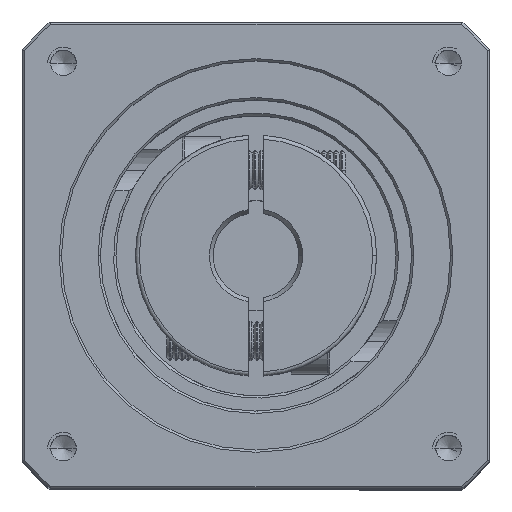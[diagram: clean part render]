
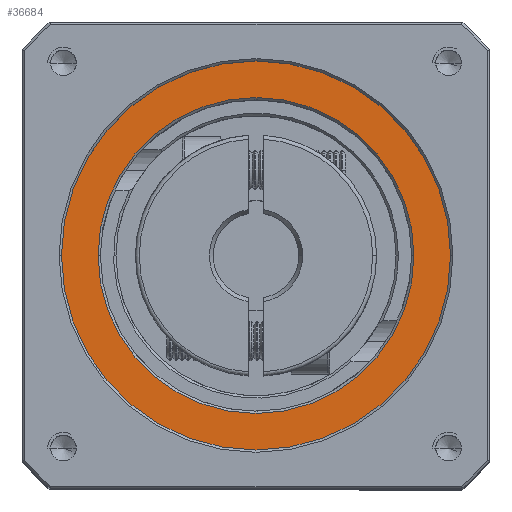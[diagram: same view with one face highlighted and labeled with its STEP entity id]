
A CAD part, top view. The second image highlights one B-rep face of the part: STEP entity #36684.
In plain terms, the highlighted planar face has unit normal (0, 0, 1).
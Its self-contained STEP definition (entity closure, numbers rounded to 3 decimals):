
#552 = VERTEX_POINT ( 'NONE', #57049 ) ;
#2847 = DIRECTION ( 'NONE',  ( 0., 0., -1. ) ) ;
#8160 = CIRCLE ( 'NONE', #49158, 25. ) ;
#8610 = VERTEX_POINT ( 'NONE', #48816 ) ;
#8817 = AXIS2_PLACEMENT_3D ( 'NONE', #68829, #24330, #76305 ) ;
#8843 = FACE_BOUND ( 'NONE', #53490, .T. ) ;
#9309 = VERTEX_POINT ( 'NONE', #55874 ) ;
#9701 = AXIS2_PLACEMENT_3D ( 'NONE', #78497, #33952, #85931 ) ;
#12632 = CARTESIAN_POINT ( 'NONE',  ( -46.125, 14.93, 33.07 ) ) ;
#21065 = CARTESIAN_POINT ( 'NONE',  ( -66.425, 14.93, 33.07 ) ) ;
#24330 = DIRECTION ( 'NONE',  ( 0., 0., 1. ) ) ;
#28498 = DIRECTION ( 'NONE',  ( 1., 0., 0. ) ) ;
#29851 = EDGE_CURVE ( 'NONE', #8610, #86727, #87326, .T. ) ;
#33952 = DIRECTION ( 'NONE',  ( 0., 0., -1. ) ) ;
#35852 = PLANE ( 'NONE',  #66406 ) ;
#36181 = DIRECTION ( 'NONE',  ( 0., 0., 1. ) ) ;
#36459 = CIRCLE ( 'NONE', #8817, 25. ) ;
#36684 = ADVANCED_FACE ( 'NONE', ( #8843, #45948 ), #35852, .T. ) ;
#39361 = ORIENTED_EDGE ( 'NONE', *, *, #85965, .T. ) ;
#45948 = FACE_OUTER_BOUND ( 'NONE', #74678, .T. ) ;
#46691 = EDGE_CURVE ( 'NONE', #9309, #552, #36459, .T. ) ;
#47245 = CARTESIAN_POINT ( 'NONE',  ( -66.425, 14.93, 33.07 ) ) ;
#48816 = CARTESIAN_POINT ( 'NONE',  ( -86.725, 14.93, 33.07 ) ) ;
#49158 = AXIS2_PLACEMENT_3D ( 'NONE', #21065, #73023, #28498 ) ;
#53250 = CIRCLE ( 'NONE', #78719, 20.3 ) ;
#53490 = EDGE_LOOP ( 'NONE', ( #39361, #92090 ) ) ;
#54709 = DIRECTION ( 'NONE',  ( 1., 0., 0. ) ) ;
#54795 = ORIENTED_EDGE ( 'NONE', *, *, #84258, .T. ) ;
#55874 = CARTESIAN_POINT ( 'NONE',  ( -91.425, 14.93, 33.07 ) ) ;
#57049 = CARTESIAN_POINT ( 'NONE',  ( -41.425, 14.93, 33.07 ) ) ;
#66406 = AXIS2_PLACEMENT_3D ( 'NONE', #80736, #36181, #88158 ) ;
#68829 = CARTESIAN_POINT ( 'NONE',  ( -66.425, 14.93, 33.07 ) ) ;
#70493 = ORIENTED_EDGE ( 'NONE', *, *, #46691, .T. ) ;
#73023 = DIRECTION ( 'NONE',  ( 0., 0., 1. ) ) ;
#74678 = EDGE_LOOP ( 'NONE', ( #54795, #70493 ) ) ;
#76305 = DIRECTION ( 'NONE',  ( 1., 0., 0. ) ) ;
#78497 = CARTESIAN_POINT ( 'NONE',  ( -66.425, 14.93, 33.07 ) ) ;
#78719 = AXIS2_PLACEMENT_3D ( 'NONE', #47245, #2847, #54709 ) ;
#80736 = CARTESIAN_POINT ( 'NONE',  ( -66.425, 14.93, 33.07 ) ) ;
#84258 = EDGE_CURVE ( 'NONE', #552, #9309, #8160, .T. ) ;
#85931 = DIRECTION ( 'NONE',  ( 1., 0., 0. ) ) ;
#85965 = EDGE_CURVE ( 'NONE', #86727, #8610, #53250, .T. ) ;
#86727 = VERTEX_POINT ( 'NONE', #12632 ) ;
#87326 = CIRCLE ( 'NONE', #9701, 20.3 ) ;
#88158 = DIRECTION ( 'NONE',  ( 1., 0., 0. ) ) ;
#92090 = ORIENTED_EDGE ( 'NONE', *, *, #29851, .T. ) ;
